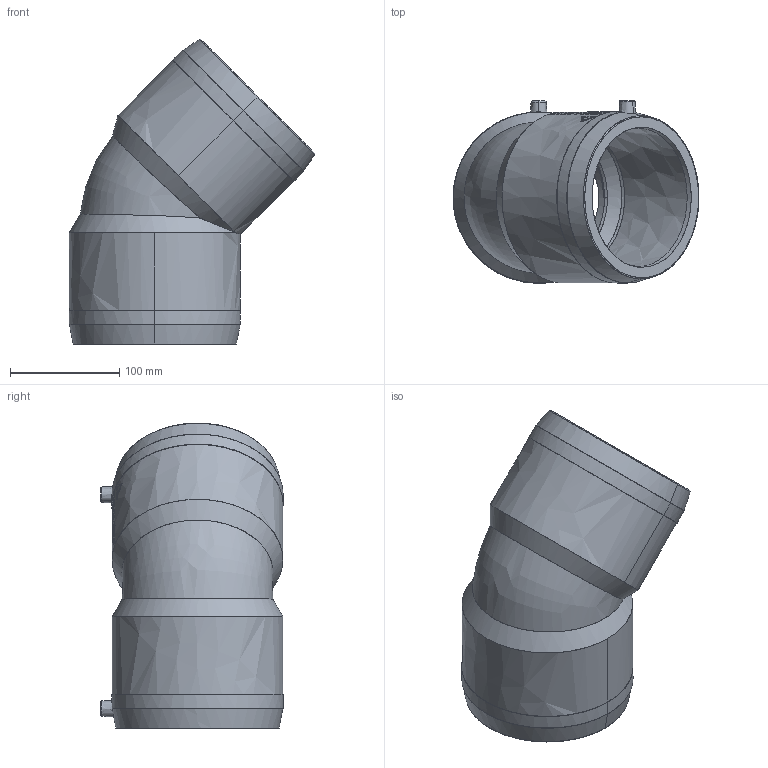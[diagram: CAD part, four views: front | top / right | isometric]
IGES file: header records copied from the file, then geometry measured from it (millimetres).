
Start section:  PTC IGES file: w45_d125_01.igs
Global section: file name: w45_d125_01.igs; native system: Pro/ENGINEER by Parametric Technology Corporation; preprocessor: 2011490; author: mtunjic; organization: Unknown; date: 20130812.112715; units: millimetre
Bounding box: 224.66 x 166.62 x 279.36 mm (x, y, z)
Surface area: 240420 mm2 (no closed solid volume)
Topology: 0 solids, 0 shells, 181 faces, 928 edges, 928 vertices
Faces by surface type: bspline 181
